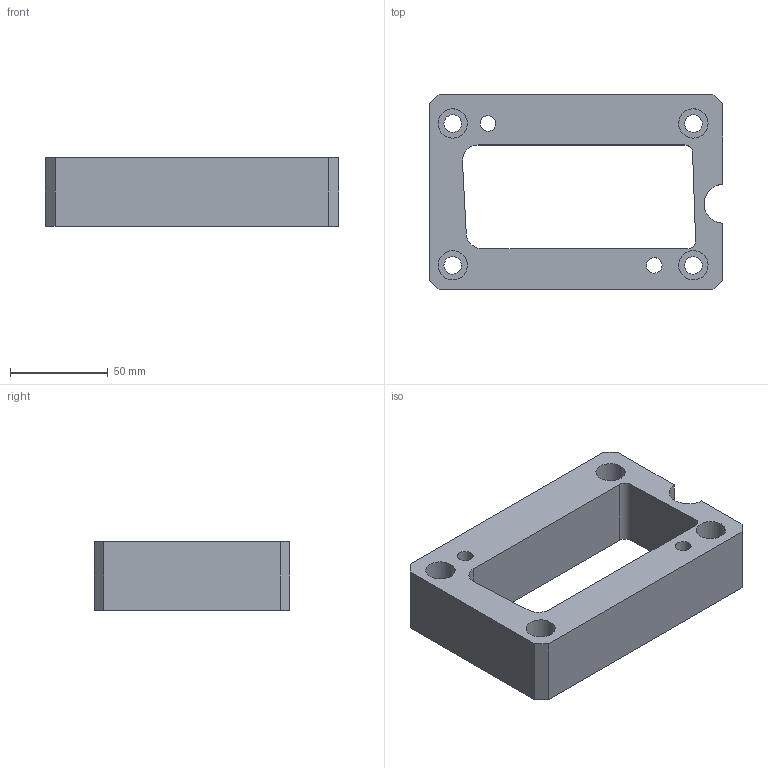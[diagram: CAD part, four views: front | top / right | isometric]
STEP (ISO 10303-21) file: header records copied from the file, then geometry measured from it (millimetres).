
FILE_DESCRIPTION(('CATIA V5 STEP Exchange','CAx-IF Rec.Pracs.--- Model Styling and Organization---1.5--- 2016-08-15','CAx-IF Rec.Pracs.---Supplemental Geometry---1.0---2011-11-01','CAx-IF Rec.Pracs.--- Composite Materials ---1.1---2010-07-15','CAx-IF Rec.Pracs.---External References---2.1---2005-01-19'),'2;1');
FILE_NAME('E:\WAT\Sprezarka\121_00_00_Tlocznik1\Tlocznik1_KPL\Tlocznik1_stp\121_03_53_Oprawa.stp','2023-08-01T08:49:44+00:00',('none'),('none'),'CATIA Version 5-6 Release 2022 SP3','CATIA V5 STEP AP214 v2','none');
FILE_SCHEMA(('AUTOMOTIVE_DESIGN { 1 0 10303 214 1 1 1 1 }'));
Length unit declared in the file: millimetre
Products named in the file (1): 121_03_53_Oprawa
Bounding box: 150 x 100 x 35 mm (x, y, z)
Volume: 282205.2 mm3; surface area: 52391.5 mm2
Topology: 1 solids, 1 shells, 45 faces, 117 edges, 78 vertices
Faces by surface type: cylinder 26, plane 19
Entity records: 1389 total; most frequent: ORIENTED_EDGE 234, CARTESIAN_POINT 226, DIRECTION 177, EDGE_CURVE 117, AXIS2_PLACEMENT_3D 83, VERTEX_POINT 78, VECTOR 65, LINE 65
